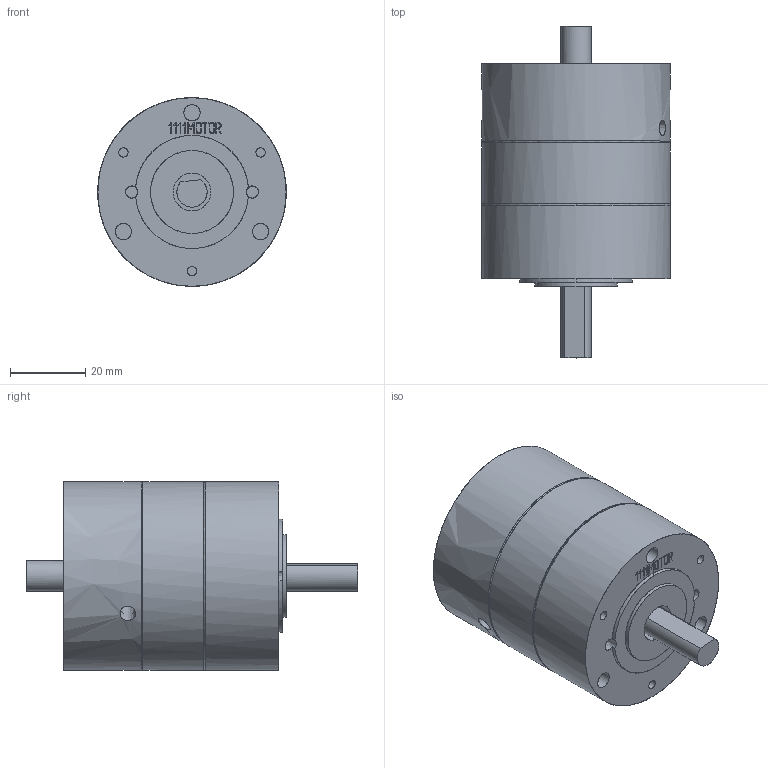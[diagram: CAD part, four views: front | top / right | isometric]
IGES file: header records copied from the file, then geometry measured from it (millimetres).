
Start section: C
Global section: file name: BL48-2000RPM.igs; native system: By Siemens PLM Incorporated; preprocessor: XPlus GENERIC/IGES 17.0.49; author: Author; organization: Title; date: 20170219.164628; units: millimetre
Bounding box: 50 x 88 x 50 mm (x, y, z)
Surface area: 29951.7 mm2 (no closed solid volume)
Topology: 0 solids, 0 shells, 201 faces, 1378 edges, 1378 vertices
Faces by surface type: bspline 201
